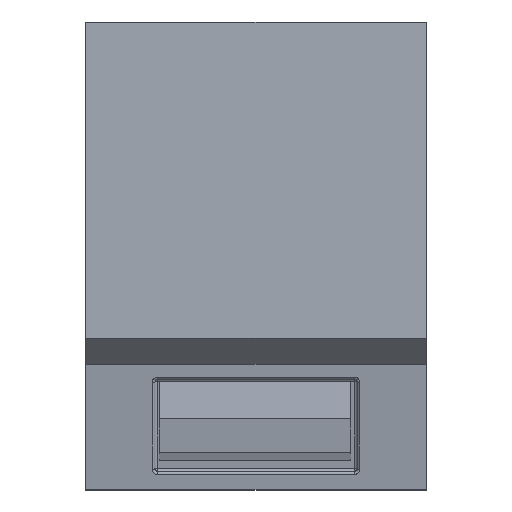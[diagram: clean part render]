
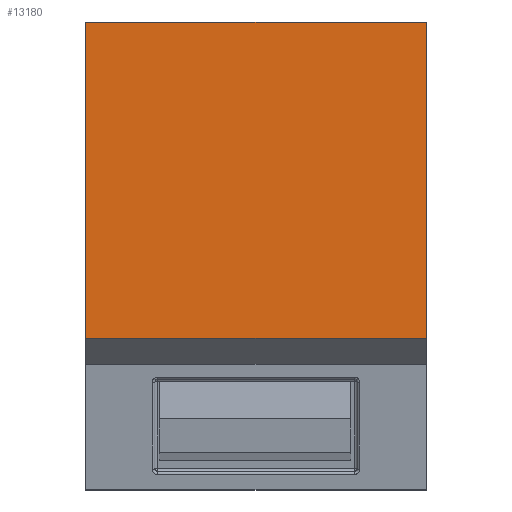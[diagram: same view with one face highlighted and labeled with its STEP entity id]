
A CAD part, front view. The second image highlights one B-rep face of the part: STEP entity #13180.
In plain terms, the highlighted planar face has unit normal (0, -1, 0).
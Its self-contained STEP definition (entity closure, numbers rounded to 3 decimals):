
#502 = VECTOR ( 'NONE', #6739, 1000. ) ;
#1055 = LINE ( 'NONE', #9530, #10123 ) ;
#1066 = EDGE_CURVE ( 'NONE', #10937, #9305, #6963, .T. ) ;
#1326 = VECTOR ( 'NONE', #3814, 1000. ) ;
#1460 = ORIENTED_EDGE ( 'NONE', *, *, #6216, .F. ) ;
#1853 = EDGE_CURVE ( 'NONE', #10937, #7654, #1055, .T. ) ;
#2532 = LINE ( 'NONE', #3769, #8619 ) ;
#2804 = EDGE_LOOP ( 'NONE', ( #1460, #9466, #12846, #5222 ) ) ;
#3769 = CARTESIAN_POINT ( 'NONE',  ( -32., 0., 0. ) ) ;
#3814 = DIRECTION ( 'NONE',  ( 0., 0., 1. ) ) ;
#4070 = FACE_OUTER_BOUND ( 'NONE', #2804, .T. ) ;
#4847 = EDGE_CURVE ( 'NONE', #9305, #5751, #6680, .T. ) ;
#5222 = ORIENTED_EDGE ( 'NONE', *, *, #4847, .T. ) ;
#5446 = CARTESIAN_POINT ( 'NONE',  ( -32., 0., 26.5 ) ) ;
#5751 = VERTEX_POINT ( 'NONE', #5446 ) ;
#6027 = CARTESIAN_POINT ( 'NONE',  ( 32., 0., -33. ) ) ;
#6128 = DIRECTION ( 'NONE',  ( 0., -1., 0. ) ) ;
#6216 = EDGE_CURVE ( 'NONE', #7654, #5751, #2532, .T. ) ;
#6336 = CARTESIAN_POINT ( 'NONE',  ( 32., 0., 0. ) ) ;
#6680 = LINE ( 'NONE', #13060, #502 ) ;
#6739 = DIRECTION ( 'NONE',  ( -1., 0., 0. ) ) ;
#6963 = LINE ( 'NONE', #11151, #1326 ) ;
#7393 = DIRECTION ( 'NONE',  ( -1., 0., 0. ) ) ;
#7426 = DIRECTION ( 'NONE',  ( 0., 0., -1. ) ) ;
#7654 = VERTEX_POINT ( 'NONE', #11100 ) ;
#7956 = DIRECTION ( 'NONE',  ( 0., 0., 1. ) ) ;
#8619 = VECTOR ( 'NONE', #7956, 1000. ) ;
#9305 = VERTEX_POINT ( 'NONE', #9583 ) ;
#9466 = ORIENTED_EDGE ( 'NONE', *, *, #1853, .F. ) ;
#9530 = CARTESIAN_POINT ( 'NONE',  ( 32., 0., -33. ) ) ;
#9583 = CARTESIAN_POINT ( 'NONE',  ( 32., 0., 26.5 ) ) ;
#10123 = VECTOR ( 'NONE', #7393, 1000. ) ;
#10742 = AXIS2_PLACEMENT_3D ( 'NONE', #6336, #6128, #7426 ) ;
#10937 = VERTEX_POINT ( 'NONE', #6027 ) ;
#11100 = CARTESIAN_POINT ( 'NONE',  ( -32., 0., -33. ) ) ;
#11151 = CARTESIAN_POINT ( 'NONE',  ( 32., 0., 0. ) ) ;
#11349 = PLANE ( 'NONE',  #10742 ) ;
#12846 = ORIENTED_EDGE ( 'NONE', *, *, #1066, .T. ) ;
#13060 = CARTESIAN_POINT ( 'NONE',  ( 32., 0., 26.5 ) ) ;
#13180 = ADVANCED_FACE ( 'NONE', ( #4070 ), #11349, .T. ) ;
